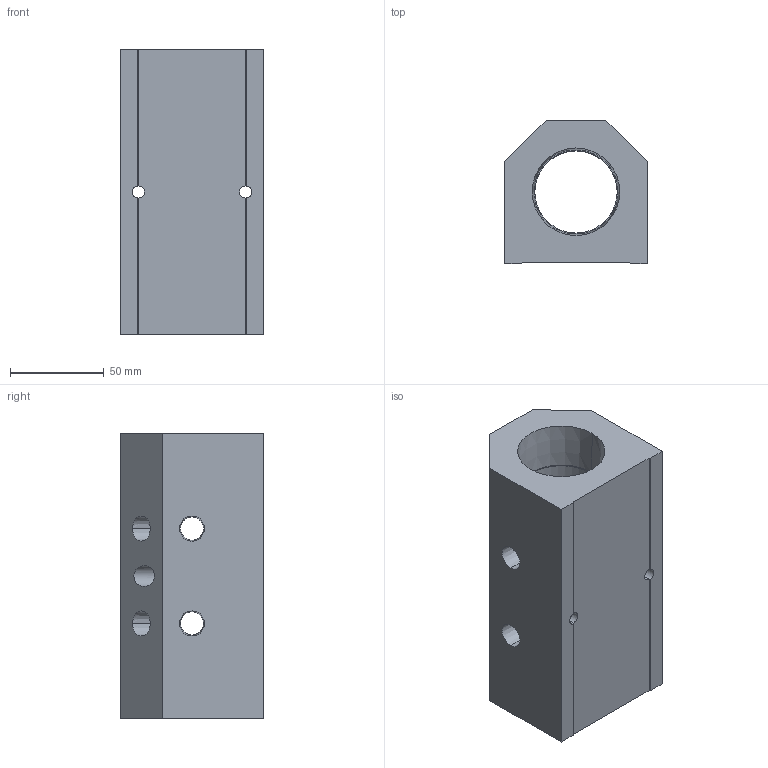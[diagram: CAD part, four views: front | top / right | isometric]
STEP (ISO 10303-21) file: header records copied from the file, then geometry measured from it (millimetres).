
FILE_DESCRIPTION (( 'STEP AP214' ), '1' );
FILE_NAME ('ALM2ABCDE-N4N24-152B.step', '2022-02-07T07:46:06', ( '' ), ( '' ), 'SwSTEP 2.0', 'SolidWorks 2020', '' );
FILE_SCHEMA (( 'AUTOMOTIVE_DESIGN' ));
Length unit declared in the file: millimetre
Products named in the file (1): ALM2ABCDE-N4N24-152B
Bounding box: 76.2 x 76.2 x 152 mm (x, y, z)
Volume: 538940.6 mm3; surface area: 77873.4 mm2
Topology: 1 solids, 1 shells, 346 faces, 921 edges, 610 vertices
Faces by surface type: plane 248, bspline 64, cone 24, cylinder 10
Entity records: 19093 total; most frequent: CARTESIAN_POINT 7456, ORIENTED_EDGE 1842, DIRECTION 1375, EDGE_CURVE 921, LINE 721, VECTOR 721, VERTEX_POINT 610, EDGE_LOOP 405
